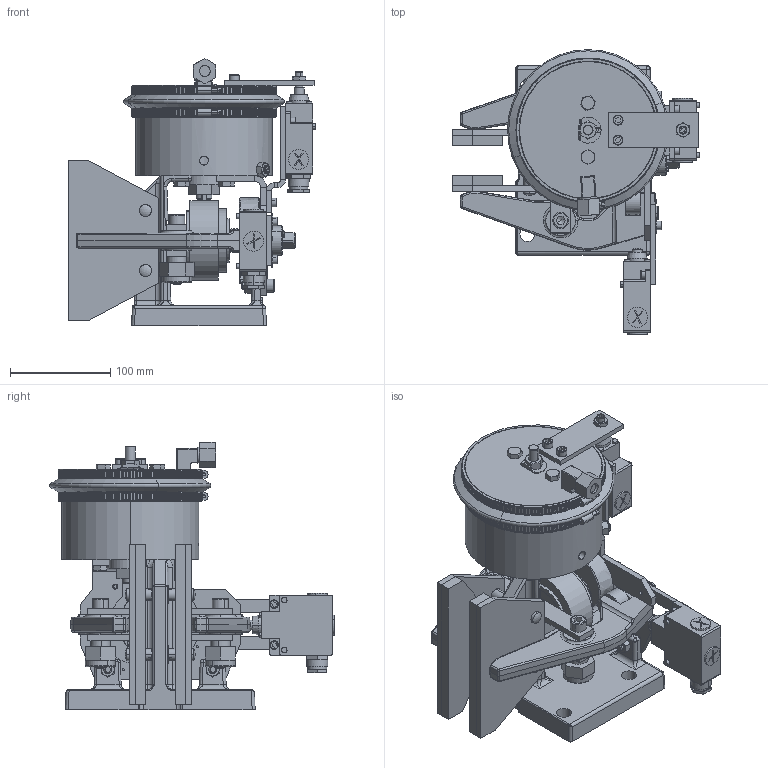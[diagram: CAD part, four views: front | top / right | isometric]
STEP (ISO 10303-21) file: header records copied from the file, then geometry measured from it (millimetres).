
FILE_DESCRIPTION((''),'2;1');
FILE_NAME('DA_561_FEA','2026-03-09T15:40:21',('MAPM'),(''),'CREO PARAMETRIC BY PTC INC, 2025102','CREO PARAMETRIC BY PTC INC, 2025102','');
FILE_SCHEMA(('CONFIG_CONTROL_DESIGN','SHAPE_APPEARANCE_LAYERS_GROUPS'));
Products named in the file (1): DA_561_FEA
Bounding box: 247 x 284.5 x 267.14 mm (x, y, z)
Volume: 1951132.5 mm3; surface area: 561223.1 mm2
Topology: 9 solids, 12 shells, 3796 faces, 9197 edges, 5820 vertices
Faces by surface type: plane 2257, cylinder 935, cone 346, bspline 106, torus 105, sphere 33, extrusion 14
Entity records: 193383 total; most frequent: CARTESIAN_POINT 49595, DIRECTION 18799, ORIENTED_EDGE 18306, PRESENTATION_STYLE_ASSIGNMENT 12973, STYLED_ITEM 9177, CURVE_STYLE 9167, EDGE_CURVE 9153, AXIS2_PLACEMENT_3D 6841
